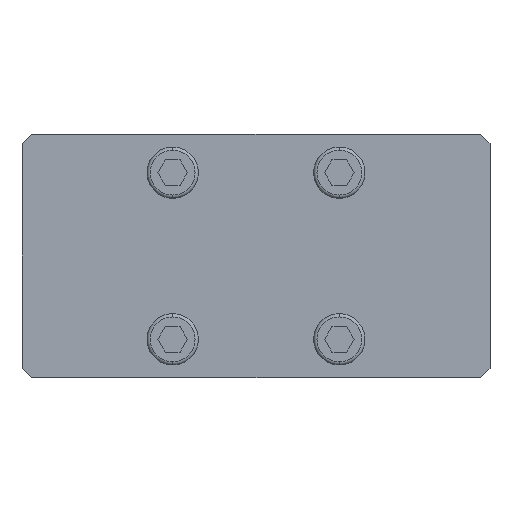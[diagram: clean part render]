
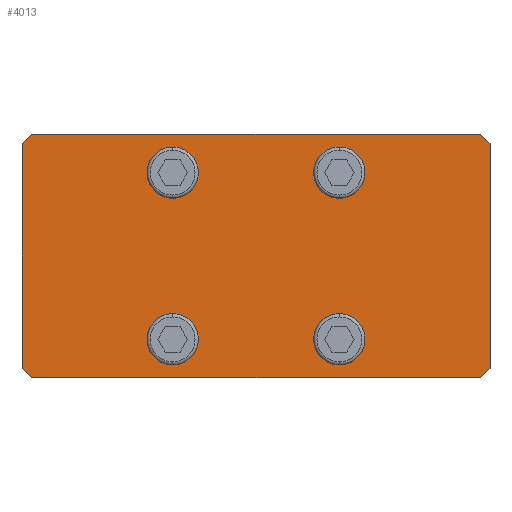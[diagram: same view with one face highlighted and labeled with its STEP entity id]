
A CAD part, front view. The second image highlights one B-rep face of the part: STEP entity #4013.
In plain terms, the highlighted planar face has unit normal (0, -1, 0).
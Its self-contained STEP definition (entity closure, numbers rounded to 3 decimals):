
#471 = CIRCLE ( 'NONE', #499, 6. ) ;
#499 = AXIS2_PLACEMENT_3D ( 'NONE', #4916, #4917, #4918 ) ;
#517 = AXIS2_PLACEMENT_3D ( 'NONE', #1743, #1744, #1745 ) ;
#611 = CIRCLE ( 'NONE', #618, 6. ) ;
#618 = AXIS2_PLACEMENT_3D ( 'NONE', #1169, #1170, #1171 ) ;
#637 = AXIS2_PLACEMENT_3D ( 'NONE', #1129, #1130, #1131 ) ;
#645 = CIRCLE ( 'NONE', #637, 6. ) ;
#844 = DIRECTION ( 'NONE',  ( 0., 0., 1. ) ) ;
#845 = DIRECTION ( 'NONE',  ( 0., 1., 0. ) ) ;
#846 = FACE_BOUND ( 'NONE', #2694, .T. ) ;
#849 = FACE_OUTER_BOUND ( 'NONE', #2718, .T. ) ;
#850 = CARTESIAN_POINT ( 'NONE',  ( -73., 0., 38. ) ) ;
#852 = FACE_BOUND ( 'NONE', #2742, .T. ) ;
#853 = FACE_BOUND ( 'NONE', #2639, .T. ) ;
#856 = PLANE ( 'NONE',  #8091 ) ;
#860 = FACE_BOUND ( 'NONE', #2741, .T. ) ;
#1129 = CARTESIAN_POINT ( 'NONE',  ( 26., 0., -26. ) ) ;
#1130 = DIRECTION ( 'NONE',  ( 0., 1., 0. ) ) ;
#1131 = DIRECTION ( 'NONE',  ( 0., 0., 1. ) ) ;
#1169 = CARTESIAN_POINT ( 'NONE',  ( -26., 0., -26. ) ) ;
#1170 = DIRECTION ( 'NONE',  ( 0., -1., 0. ) ) ;
#1171 = DIRECTION ( 'NONE',  ( 0., 0., 1. ) ) ;
#1262 = CARTESIAN_POINT ( 'NONE',  ( 26., 0., 26. ) ) ;
#1263 = DIRECTION ( 'NONE',  ( 0., -1., 0. ) ) ;
#1264 = DIRECTION ( 'NONE',  ( 0., 0., -1. ) ) ;
#1743 = CARTESIAN_POINT ( 'NONE',  ( -26., 0., 26. ) ) ;
#1744 = DIRECTION ( 'NONE',  ( 0., 1., 0. ) ) ;
#1745 = DIRECTION ( 'NONE',  ( 0., 0., -1. ) ) ;
#2639 = EDGE_LOOP ( 'NONE', ( #5679, #5639 ) ) ;
#2694 = EDGE_LOOP ( 'NONE', ( #5678, #5689 ) ) ;
#2718 = EDGE_LOOP ( 'NONE', ( #5668, #5667, #5696, #5693, #5672, #5642, #5660, #5638 ) ) ;
#2741 = EDGE_LOOP ( 'NONE', ( #5630, #5631 ) ) ;
#2742 = EDGE_LOOP ( 'NONE', ( #5669, #5684 ) ) ;
#3140 = VECTOR ( 'NONE', #5186, 1000. ) ;
#3142 = CIRCLE ( 'NONE', #3164, 6. ) ;
#3164 = AXIS2_PLACEMENT_3D ( 'NONE', #5258, #5259, #5260 ) ;
#3176 = VECTOR ( 'NONE', #5262, 1000. ) ;
#3190 = VECTOR ( 'NONE', #5270, 1000. ) ;
#3198 = VECTOR ( 'NONE', #5146, 1000. ) ;
#3200 = VECTOR ( 'NONE', #5305, 1000. ) ;
#3230 = VECTOR ( 'NONE', #5265, 1000. ) ;
#3233 = CIRCLE ( 'NONE', #3257, 6. ) ;
#3245 = VECTOR ( 'NONE', #5288, 1000. ) ;
#3251 = CIRCLE ( 'NONE', #3262, 6. ) ;
#3257 = AXIS2_PLACEMENT_3D ( 'NONE', #5298, #5299, #5300 ) ;
#3262 = AXIS2_PLACEMENT_3D ( 'NONE', #5247, #5248, #5250 ) ;
#3278 = VECTOR ( 'NONE', #5182, 1000. ) ;
#3598 = CARTESIAN_POINT ( 'NONE',  ( 70., 0., -38. ) ) ;
#3600 = CARTESIAN_POINT ( 'NONE',  ( 26., 0., -20. ) ) ;
#3626 = CARTESIAN_POINT ( 'NONE',  ( -70., 0., -38. ) ) ;
#3642 = CARTESIAN_POINT ( 'NONE',  ( 26., 0., -32. ) ) ;
#3643 = CARTESIAN_POINT ( 'NONE',  ( 26., 0., 32. ) ) ;
#3659 = CARTESIAN_POINT ( 'NONE',  ( -70., 0., 38. ) ) ;
#3674 = CARTESIAN_POINT ( 'NONE',  ( 70., 0., 38. ) ) ;
#3754 = CARTESIAN_POINT ( 'NONE',  ( -73., 0., -35. ) ) ;
#3772 = CARTESIAN_POINT ( 'NONE',  ( 73., 0., 35. ) ) ;
#3813 = CARTESIAN_POINT ( 'NONE',  ( -26., 0., -20. ) ) ;
#3819 = CARTESIAN_POINT ( 'NONE',  ( 26., 0., 20. ) ) ;
#3848 = CARTESIAN_POINT ( 'NONE',  ( -73., 0., 35. ) ) ;
#3892 = CARTESIAN_POINT ( 'NONE',  ( -26., 0., 20. ) ) ;
#4013 = ADVANCED_FACE ( 'NONE', ( #852, #860, #849, #846, #853 ), #856, .F. ) ;
#4109 = CARTESIAN_POINT ( 'NONE',  ( 73., 0., -35. ) ) ;
#4122 = CARTESIAN_POINT ( 'NONE',  ( -26., 0., -32. ) ) ;
#4123 = CARTESIAN_POINT ( 'NONE',  ( -26., 0., 32. ) ) ;
#4916 = CARTESIAN_POINT ( 'NONE',  ( 26., 0., -26. ) ) ;
#4917 = DIRECTION ( 'NONE',  ( 0., 1., 0. ) ) ;
#4918 = DIRECTION ( 'NONE',  ( 0., 0., 1. ) ) ;
#5135 = CARTESIAN_POINT ( 'NONE',  ( -70., 0., 38. ) ) ;
#5140 = LINE ( 'NONE', #5135, #3198 ) ;
#5146 = DIRECTION ( 'NONE',  ( -0.707, 0., -0.707 ) ) ;
#5179 = LINE ( 'NONE', #5180, #3278 ) ;
#5180 = CARTESIAN_POINT ( 'NONE',  ( 73., 0., 35. ) ) ;
#5182 = DIRECTION ( 'NONE',  ( -0.707, 0., 0.707 ) ) ;
#5183 = LINE ( 'NONE', #5184, #3140 ) ;
#5184 = CARTESIAN_POINT ( 'NONE',  ( -73., 0., 38. ) ) ;
#5186 = DIRECTION ( 'NONE',  ( 1., 0., 0. ) ) ;
#5247 = CARTESIAN_POINT ( 'NONE',  ( 26., 0., 26. ) ) ;
#5248 = DIRECTION ( 'NONE',  ( 0., -1., 0. ) ) ;
#5250 = DIRECTION ( 'NONE',  ( 0., 0., -1. ) ) ;
#5251 = CARTESIAN_POINT ( 'NONE',  ( 73., 0., -38. ) ) ;
#5257 = LINE ( 'NONE', #5251, #3176 ) ;
#5258 = CARTESIAN_POINT ( 'NONE',  ( -26., 0., 26. ) ) ;
#5259 = DIRECTION ( 'NONE',  ( 0., 1., 0. ) ) ;
#5260 = DIRECTION ( 'NONE',  ( 0., 0., -1. ) ) ;
#5262 = DIRECTION ( 'NONE',  ( 0., 0., -1. ) ) ;
#5263 = LINE ( 'NONE', #5264, #3230 ) ;
#5264 = CARTESIAN_POINT ( 'NONE',  ( -73., 0., -38. ) ) ;
#5265 = DIRECTION ( 'NONE',  ( -1., 0., 0. ) ) ;
#5266 = LINE ( 'NONE', #5268, #3190 ) ;
#5268 = CARTESIAN_POINT ( 'NONE',  ( 70., 0., -38. ) ) ;
#5270 = DIRECTION ( 'NONE',  ( 0.707, 0., 0.707 ) ) ;
#5277 = LINE ( 'NONE', #5278, #3245 ) ;
#5278 = CARTESIAN_POINT ( 'NONE',  ( -73., 0., -38. ) ) ;
#5288 = DIRECTION ( 'NONE',  ( 0., 0., 1. ) ) ;
#5297 = CARTESIAN_POINT ( 'NONE',  ( -73., 0., -35. ) ) ;
#5298 = CARTESIAN_POINT ( 'NONE',  ( -26., 0., -26. ) ) ;
#5299 = DIRECTION ( 'NONE',  ( 0., -1., 0. ) ) ;
#5300 = DIRECTION ( 'NONE',  ( 0., 0., 1. ) ) ;
#5301 = LINE ( 'NONE', #5297, #3200 ) ;
#5305 = DIRECTION ( 'NONE',  ( 0.707, 0., -0.707 ) ) ;
#5630 = ORIENTED_EDGE ( 'NONE', *, *, #7199, .F. ) ;
#5631 = ORIENTED_EDGE ( 'NONE', *, *, #7318, .F. ) ;
#5638 = ORIENTED_EDGE ( 'NONE', *, *, #7175, .T. ) ;
#5639 = ORIENTED_EDGE ( 'NONE', *, *, #7125, .T. ) ;
#5642 = ORIENTED_EDGE ( 'NONE', *, *, #7184, .T. ) ;
#5660 = ORIENTED_EDGE ( 'NONE', *, *, #7185, .F. ) ;
#5667 = ORIENTED_EDGE ( 'NONE', *, *, #7213, .T. ) ;
#5668 = ORIENTED_EDGE ( 'NONE', *, *, #7209, .F. ) ;
#5669 = ORIENTED_EDGE ( 'NONE', *, *, #7471, .T. ) ;
#5672 = ORIENTED_EDGE ( 'NONE', *, *, #7202, .F. ) ;
#5678 = ORIENTED_EDGE ( 'NONE', *, *, #7211, .F. ) ;
#5679 = ORIENTED_EDGE ( 'NONE', *, *, #7274, .T. ) ;
#5684 = ORIENTED_EDGE ( 'NONE', *, *, #7201, .T. ) ;
#5689 = ORIENTED_EDGE ( 'NONE', *, *, #7287, .F. ) ;
#5693 = ORIENTED_EDGE ( 'NONE', *, *, #7204, .T. ) ;
#5696 = ORIENTED_EDGE ( 'NONE', *, *, #7203, .F. ) ;
#6110 = VERTEX_POINT ( 'NONE', #3598 ) ;
#6113 = VERTEX_POINT ( 'NONE', #3600 ) ;
#6141 = VERTEX_POINT ( 'NONE', #3626 ) ;
#6160 = VERTEX_POINT ( 'NONE', #3642 ) ;
#6161 = VERTEX_POINT ( 'NONE', #3643 ) ;
#6177 = VERTEX_POINT ( 'NONE', #3659 ) ;
#6194 = VERTEX_POINT ( 'NONE', #3674 ) ;
#6277 = VERTEX_POINT ( 'NONE', #3754 ) ;
#6296 = VERTEX_POINT ( 'NONE', #3772 ) ;
#6347 = VERTEX_POINT ( 'NONE', #3819 ) ;
#6349 = VERTEX_POINT ( 'NONE', #3813 ) ;
#6598 = CIRCLE ( 'NONE', #6630, 6. ) ;
#6630 = AXIS2_PLACEMENT_3D ( 'NONE', #1262, #1263, #1264 ) ;
#6673 = VERTEX_POINT ( 'NONE', #3848 ) ;
#6735 = VERTEX_POINT ( 'NONE', #3892 ) ;
#6770 = VERTEX_POINT ( 'NONE', #4109 ) ;
#6801 = VERTEX_POINT ( 'NONE', #4123 ) ;
#6806 = VERTEX_POINT ( 'NONE', #4122 ) ;
#7125 = EDGE_CURVE ( 'NONE', #6113, #6160, #471, .T. ) ;
#7175 = EDGE_CURVE ( 'NONE', #6177, #6673, #5140, .T. ) ;
#7184 = EDGE_CURVE ( 'NONE', #6296, #6194, #5179, .T. ) ;
#7185 = EDGE_CURVE ( 'NONE', #6177, #6194, #5183, .T. ) ;
#7199 = EDGE_CURVE ( 'NONE', #6347, #6161, #3251, .T. ) ;
#7201 = EDGE_CURVE ( 'NONE', #6801, #6735, #3142, .T. ) ;
#7202 = EDGE_CURVE ( 'NONE', #6296, #6770, #5257, .T. ) ;
#7203 = EDGE_CURVE ( 'NONE', #6110, #6141, #5263, .T. ) ;
#7204 = EDGE_CURVE ( 'NONE', #6110, #6770, #5266, .T. ) ;
#7209 = EDGE_CURVE ( 'NONE', #6277, #6673, #5277, .T. ) ;
#7211 = EDGE_CURVE ( 'NONE', #6806, #6349, #3233, .T. ) ;
#7213 = EDGE_CURVE ( 'NONE', #6277, #6141, #5301, .T. ) ;
#7274 = EDGE_CURVE ( 'NONE', #6160, #6113, #645, .T. ) ;
#7287 = EDGE_CURVE ( 'NONE', #6349, #6806, #611, .T. ) ;
#7318 = EDGE_CURVE ( 'NONE', #6161, #6347, #6598, .T. ) ;
#7471 = EDGE_CURVE ( 'NONE', #6735, #6801, #7921, .T. ) ;
#7921 = CIRCLE ( 'NONE', #517, 6. ) ;
#8091 = AXIS2_PLACEMENT_3D ( 'NONE', #850, #845, #844 ) ;
